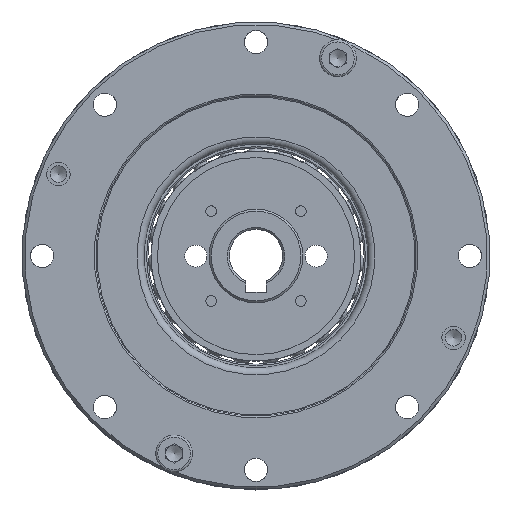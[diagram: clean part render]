
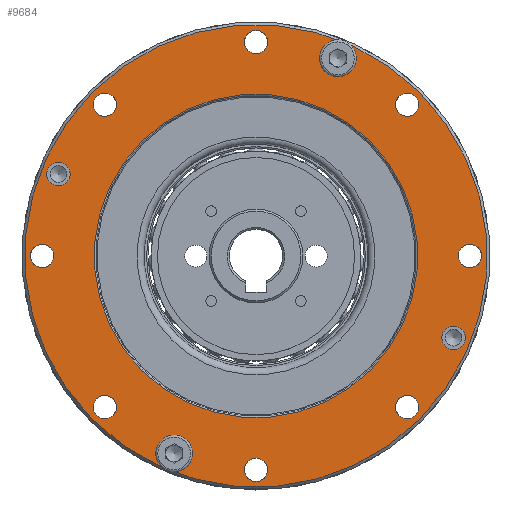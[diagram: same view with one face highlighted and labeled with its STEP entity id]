
A CAD part, top view. The second image highlights one B-rep face of the part: STEP entity #9684.
In plain terms, the highlighted planar face has unit normal (0, 0, 1).
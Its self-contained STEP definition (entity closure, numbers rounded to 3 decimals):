
#102 = CIRCLE ( 'NONE', #350, 24.2 ) ;
#350 = AXIS2_PLACEMENT_3D ( 'NONE', #14133, #1002, #5910 ) ;
#539 = EDGE_CURVE ( 'NONE', #1575, #1575, #6635, .T. ) ;
#578 = CARTESIAN_POINT ( 'NONE',  ( 0., -32., 0. ) ) ;
#978 = AXIS2_PLACEMENT_3D ( 'NONE', #1249, #15718, #10131 ) ;
#1002 = DIRECTION ( 'NONE',  ( 0., 0., 1. ) ) ;
#1127 = CARTESIAN_POINT ( 'NONE',  ( 24.466, -24.466, 0. ) ) ;
#1140 = CIRCLE ( 'NONE', #8075, 1.75 ) ;
#1249 = CARTESIAN_POINT ( 'NONE',  ( -32., 0., 0. ) ) ;
#1428 = ORIENTED_EDGE ( 'NONE', *, *, #3634, .F. ) ;
#1558 = EDGE_CURVE ( 'NONE', #14931, #14931, #3019, .T. ) ;
#1575 = VERTEX_POINT ( 'NONE', #4081 ) ;
#1754 = ORIENTED_EDGE ( 'NONE', *, *, #539, .F. ) ;
#1788 = DIRECTION ( 'NONE',  ( 0.707, -0.707, 0. ) ) ;
#1868 = VERTEX_POINT ( 'NONE', #9414 ) ;
#1880 = DIRECTION ( 'NONE',  ( 0., 0., 1. ) ) ;
#1940 = DIRECTION ( 'NONE',  ( 0., 0., 1. ) ) ;
#2056 = EDGE_LOOP ( 'NONE', ( #1428 ) ) ;
#2094 = VERTEX_POINT ( 'NONE', #15530 ) ;
#2109 = FACE_BOUND ( 'NONE', #10288, .T. ) ;
#2394 = CARTESIAN_POINT ( 'NONE',  ( 17.112, -17.112, 0. ) ) ;
#2406 = EDGE_LOOP ( 'NONE', ( #12367 ) ) ;
#2434 = CARTESIAN_POINT ( 'NONE',  ( 28.327, -11.008, 0. ) ) ;
#2491 = CARTESIAN_POINT ( 'NONE',  ( 12.246, 29.564, 0. ) ) ;
#2546 = EDGE_CURVE ( 'NONE', #7014, #7014, #2727, .T. ) ;
#2582 = VERTEX_POINT ( 'NONE', #1127 ) ;
#2727 = CIRCLE ( 'NONE', #5288, 1.75 ) ;
#3008 = DIRECTION ( 'NONE',  ( 0.707, -0.707, 0. ) ) ;
#3019 = CIRCLE ( 'NONE', #9935, 1.75 ) ;
#3151 = DIRECTION ( 'NONE',  ( 0.707, -0.707, 0. ) ) ;
#3408 = EDGE_LOOP ( 'NONE', ( #15486 ) ) ;
#3634 = EDGE_CURVE ( 'NONE', #14828, #14828, #10622, .T. ) ;
#3668 = DIRECTION ( 'NONE',  ( 0., 0., 1. ) ) ;
#3709 = CARTESIAN_POINT ( 'NONE',  ( 1.237, -33.237, 0. ) ) ;
#3821 = DIRECTION ( 'NONE',  ( 0., 0., 1. ) ) ;
#3831 = EDGE_LOOP ( 'NONE', ( #11084 ) ) ;
#3919 = CARTESIAN_POINT ( 'NONE',  ( 23.865, 21.39, 0. ) ) ;
#3947 = CIRCLE ( 'NONE', #13179, 1.75 ) ;
#3987 = EDGE_CURVE ( 'NONE', #5091, #5091, #1140, .T. ) ;
#4081 = CARTESIAN_POINT ( 'NONE',  ( -30.763, -1.237, 0. ) ) ;
#4138 = CARTESIAN_POINT ( 'NONE',  ( 0., 32., 0. ) ) ;
#4399 = DIRECTION ( 'NONE',  ( -0.707, 0.707, 0. ) ) ;
#4681 = FACE_BOUND ( 'NONE', #7053, .T. ) ;
#4786 = CARTESIAN_POINT ( 'NONE',  ( 0., 0., 0. ) ) ;
#4823 = DIRECTION ( 'NONE',  ( -0.707, 0.707, 0. ) ) ;
#4863 = CIRCLE ( 'NONE', #13847, 1.75 ) ;
#4931 = CARTESIAN_POINT ( 'NONE',  ( -22.627, -22.627, 0. ) ) ;
#5091 = VERTEX_POINT ( 'NONE', #2434 ) ;
#5125 = AXIS2_PLACEMENT_3D ( 'NONE', #8933, #9834, #12169 ) ;
#5273 = AXIS2_PLACEMENT_3D ( 'NONE', #9579, #14488, #13194 ) ;
#5288 = AXIS2_PLACEMENT_3D ( 'NONE', #8984, #10187, #4399 ) ;
#5301 = AXIS2_PLACEMENT_3D ( 'NONE', #578, #1940, #1788 ) ;
#5336 = AXIS2_PLACEMENT_3D ( 'NONE', #4931, #3821, #7501 ) ;
#5391 = ORIENTED_EDGE ( 'NONE', *, *, #2546, .T. ) ;
#5535 = ORIENTED_EDGE ( 'NONE', *, *, #15344, .F. ) ;
#5698 = CARTESIAN_POINT ( 'NONE',  ( 11.008, 30.802, 0. ) ) ;
#5719 = VERTEX_POINT ( 'NONE', #13102 ) ;
#5730 = FACE_BOUND ( 'NONE', #3831, .T. ) ;
#5814 = FACE_BOUND ( 'NONE', #2406, .T. ) ;
#5910 = DIRECTION ( 'NONE',  ( 0.707, -0.707, 0. ) ) ;
#5917 = ORIENTED_EDGE ( 'NONE', *, *, #8348, .F. ) ;
#6093 = CARTESIAN_POINT ( 'NONE',  ( -12.246, -29.564, 0. ) ) ;
#6222 = ORIENTED_EDGE ( 'NONE', *, *, #9284, .T. ) ;
#6524 = AXIS2_PLACEMENT_3D ( 'NONE', #14302, #15359, #14067 ) ;
#6635 = CIRCLE ( 'NONE', #978, 1.75 ) ;
#6866 = EDGE_CURVE ( 'NONE', #2094, #2094, #11538, .T. ) ;
#6887 = DIRECTION ( 'NONE',  ( -0.707, 0.707, 0. ) ) ;
#6975 = VERTEX_POINT ( 'NONE', #5698 ) ;
#7014 = VERTEX_POINT ( 'NONE', #12078 ) ;
#7053 = EDGE_LOOP ( 'NONE', ( #9062 ) ) ;
#7059 = DIRECTION ( 'NONE',  ( 0., 0., -1. ) ) ;
#7137 = VERTEX_POINT ( 'NONE', #2394 ) ;
#7169 = PLANE ( 'NONE',  #5273 ) ;
#7231 = CIRCLE ( 'NONE', #13657, 1.75 ) ;
#7308 = EDGE_LOOP ( 'NONE', ( #9056 ) ) ;
#7455 = CARTESIAN_POINT ( 'NONE',  ( 29.564, -12.246, 0. ) ) ;
#7501 = DIRECTION ( 'NONE',  ( 0.707, -0.707, 0. ) ) ;
#7637 = VERTEX_POINT ( 'NONE', #10205 ) ;
#7745 = EDGE_CURVE ( 'NONE', #1868, #1868, #4863, .T. ) ;
#8075 = AXIS2_PLACEMENT_3D ( 'NONE', #7455, #11546, #6887 ) ;
#8348 = EDGE_CURVE ( 'NONE', #5719, #5719, #7231, .T. ) ;
#8734 = EDGE_LOOP ( 'NONE', ( #9767 ) ) ;
#8933 = CARTESIAN_POINT ( 'NONE',  ( 32., 0., 0. ) ) ;
#8984 = CARTESIAN_POINT ( 'NONE',  ( -29.564, 12.246, 0. ) ) ;
#8997 = ORIENTED_EDGE ( 'NONE', *, *, #10773, .F. ) ;
#9056 = ORIENTED_EDGE ( 'NONE', *, *, #6866, .F. ) ;
#9062 = ORIENTED_EDGE ( 'NONE', *, *, #3987, .T. ) ;
#9259 = CARTESIAN_POINT ( 'NONE',  ( 22.627, -22.627, 0. ) ) ;
#9284 = EDGE_CURVE ( 'NONE', #2582, #2582, #11932, .T. ) ;
#9394 = AXIS2_PLACEMENT_3D ( 'NONE', #9259, #14164, #3151 ) ;
#9414 = CARTESIAN_POINT ( 'NONE',  ( -13.483, -28.327, 0. ) ) ;
#9450 = DIRECTION ( 'NONE',  ( 0.707, -0.707, 0. ) ) ;
#9579 = CARTESIAN_POINT ( 'NONE',  ( 17.112, 17.112, 0. ) ) ;
#9684 = ADVANCED_FACE ( 'NONE', ( #4681, #5730, #2109, #5814, #10625, #11998, #10783, #13114, #14338, #15544, #11829, #11907, #10713, #15626 ), #7169, .F. ) ;
#9767 = ORIENTED_EDGE ( 'NONE', *, *, #13240, .F. ) ;
#9834 = DIRECTION ( 'NONE',  ( 0., 0., 1. ) ) ;
#9925 = EDGE_CURVE ( 'NONE', #11018, #11018, #10425, .T. ) ;
#9929 = CIRCLE ( 'NONE', #5336, 1.75 ) ;
#9935 = AXIS2_PLACEMENT_3D ( 'NONE', #11819, #10700, #13030 ) ;
#10131 = DIRECTION ( 'NONE',  ( 0.707, -0.707, 0. ) ) ;
#10187 = DIRECTION ( 'NONE',  ( 0., 0., -1. ) ) ;
#10205 = CARTESIAN_POINT ( 'NONE',  ( -21.39, -23.865, 0. ) ) ;
#10288 = EDGE_LOOP ( 'NONE', ( #5391 ) ) ;
#10425 = CIRCLE ( 'NONE', #5301, 1.75 ) ;
#10622 = CIRCLE ( 'NONE', #6524, 1.75 ) ;
#10625 = FACE_BOUND ( 'NONE', #7308, .T. ) ;
#10675 = CIRCLE ( 'NONE', #9394, 1.75 ) ;
#10700 = DIRECTION ( 'NONE',  ( 0., 0., 1. ) ) ;
#10713 = FACE_BOUND ( 'NONE', #3408, .T. ) ;
#10773 = EDGE_CURVE ( 'NONE', #7637, #7637, #9929, .T. ) ;
#10783 = FACE_BOUND ( 'NONE', #8734, .T. ) ;
#10988 = DIRECTION ( 'NONE',  ( 0., 0., -1. ) ) ;
#11018 = VERTEX_POINT ( 'NONE', #3709 ) ;
#11084 = ORIENTED_EDGE ( 'NONE', *, *, #7745, .T. ) ;
#11116 = CARTESIAN_POINT ( 'NONE',  ( -21.39, 21.39, 0. ) ) ;
#11538 = CIRCLE ( 'NONE', #5125, 1.75 ) ;
#11546 = DIRECTION ( 'NONE',  ( 0., 0., -1. ) ) ;
#11602 = EDGE_LOOP ( 'NONE', ( #8997 ) ) ;
#11819 = CARTESIAN_POINT ( 'NONE',  ( 22.627, 22.627, 0. ) ) ;
#11829 = FACE_BOUND ( 'NONE', #13391, .T. ) ;
#11907 = FACE_BOUND ( 'NONE', #11602, .T. ) ;
#11932 = CIRCLE ( 'NONE', #12194, 34.6 ) ;
#11998 = FACE_OUTER_BOUND ( 'NONE', #14079, .T. ) ;
#12078 = CARTESIAN_POINT ( 'NONE',  ( -30.802, 13.483, 0. ) ) ;
#12169 = DIRECTION ( 'NONE',  ( 0.707, -0.707, 0. ) ) ;
#12194 = AXIS2_PLACEMENT_3D ( 'NONE', #4786, #3668, #9450 ) ;
#12367 = ORIENTED_EDGE ( 'NONE', *, *, #12910, .T. ) ;
#12664 = CARTESIAN_POINT ( 'NONE',  ( 23.865, -23.865, 0. ) ) ;
#12807 = EDGE_LOOP ( 'NONE', ( #5535 ) ) ;
#12910 = EDGE_CURVE ( 'NONE', #6975, #6975, #3947, .T. ) ;
#13030 = DIRECTION ( 'NONE',  ( 0.707, -0.707, 0. ) ) ;
#13059 = EDGE_LOOP ( 'NONE', ( #5917 ) ) ;
#13089 = ORIENTED_EDGE ( 'NONE', *, *, #1558, .F. ) ;
#13102 = CARTESIAN_POINT ( 'NONE',  ( 1.237, 30.763, 0. ) ) ;
#13114 = FACE_BOUND ( 'NONE', #14638, .T. ) ;
#13179 = AXIS2_PLACEMENT_3D ( 'NONE', #2491, #7059, #4823 ) ;
#13194 = DIRECTION ( 'NONE',  ( -0.707, 0.707, 0. ) ) ;
#13240 = EDGE_CURVE ( 'NONE', #7137, #7137, #102, .T. ) ;
#13391 = EDGE_LOOP ( 'NONE', ( #1754 ) ) ;
#13657 = AXIS2_PLACEMENT_3D ( 'NONE', #4138, #1880, #3008 ) ;
#13847 = AXIS2_PLACEMENT_3D ( 'NONE', #6093, #10988, #14688 ) ;
#14067 = DIRECTION ( 'NONE',  ( 0.707, -0.707, 0. ) ) ;
#14079 = EDGE_LOOP ( 'NONE', ( #6222 ) ) ;
#14133 = CARTESIAN_POINT ( 'NONE',  ( 0., 0., 0. ) ) ;
#14164 = DIRECTION ( 'NONE',  ( 0., 0., 1. ) ) ;
#14302 = CARTESIAN_POINT ( 'NONE',  ( -22.627, 22.627, 0. ) ) ;
#14338 = FACE_BOUND ( 'NONE', #13059, .T. ) ;
#14488 = DIRECTION ( 'NONE',  ( 0., 0., -1. ) ) ;
#14638 = EDGE_LOOP ( 'NONE', ( #13089 ) ) ;
#14688 = DIRECTION ( 'NONE',  ( -0.707, 0.707, 0. ) ) ;
#14828 = VERTEX_POINT ( 'NONE', #11116 ) ;
#14931 = VERTEX_POINT ( 'NONE', #3919 ) ;
#15104 = VERTEX_POINT ( 'NONE', #12664 ) ;
#15344 = EDGE_CURVE ( 'NONE', #15104, #15104, #10675, .T. ) ;
#15359 = DIRECTION ( 'NONE',  ( 0., 0., 1. ) ) ;
#15486 = ORIENTED_EDGE ( 'NONE', *, *, #9925, .F. ) ;
#15530 = CARTESIAN_POINT ( 'NONE',  ( 33.237, -1.237, 0. ) ) ;
#15544 = FACE_BOUND ( 'NONE', #2056, .T. ) ;
#15626 = FACE_BOUND ( 'NONE', #12807, .T. ) ;
#15718 = DIRECTION ( 'NONE',  ( 0., 0., 1. ) ) ;
